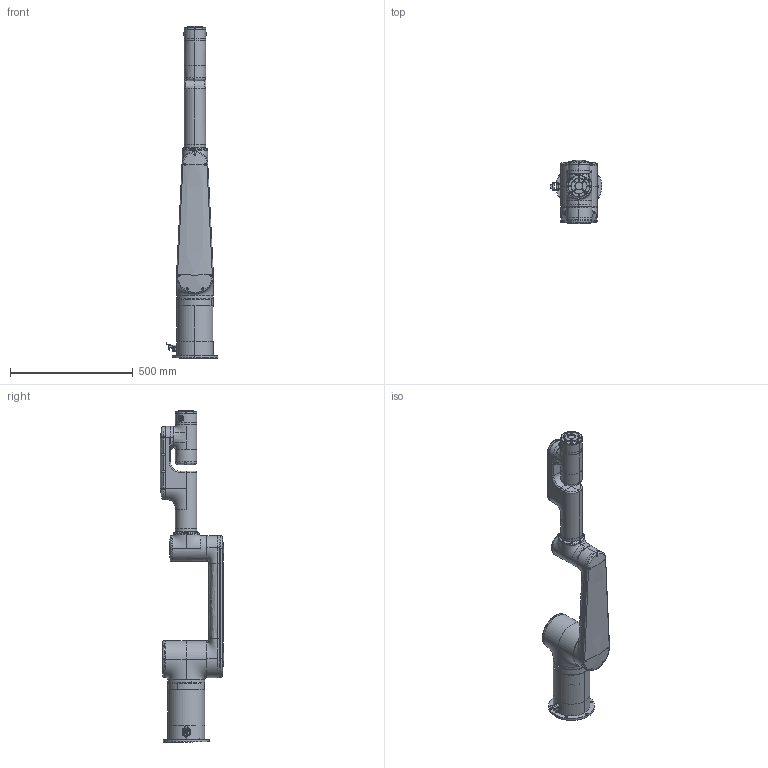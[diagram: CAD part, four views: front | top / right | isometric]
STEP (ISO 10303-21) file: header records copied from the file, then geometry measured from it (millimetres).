
FILE_DESCRIPTION(/* description */ (''),/* implementation_level */ '2;1');
FILE_NAME(/* name */ 'OPTI5_dummy',/* time_stamp */ '2025-10-21T17:38:03+09:00',/* author */ (''),/* organization */ (''),/* preprocessor_version */ 'ST-DEVELOPER v16.5',/* originating_system */ 'Rhino 7.38',/* authorisation */ '');
FILE_SCHEMA (('CONFIG_CONTROL_DESIGN'));
Length unit declared in the file: millimetre
Products named in the file (5): Document; M29000052A_BOLT_M3_L8_HS; CONN_HARTING_09452151760_100585822MOD000A; Block 11; DUMMY_Endtool_Connector_RevE_Nut^Endtool_Connector_Rev.E
Assembly tree (6 placements, depth 3):
  Document
    M29000052A_BOLT_M3_L8_HS  x2
    CONN_HARTING_09452151760_100585822MOD000A
      Block 11
    DUMMY_Endtool_Connector_RevE_Nut^Endtool_Connector_Rev.E  x2
Bounding box: 209.68 x 257.5 x 1350.5 mm (x, y, z)
Volume: 8736848.6 mm3; surface area: 1105313.1 mm2
Topology: 20 solids, 66 shells, 2637 faces, 7040 edges, 4597 vertices
Faces by surface type: plane 1388, cylinder 902, bspline 347
Full cylindrical faces by diameter (mm): 1 x2
Entity records: 288939 total; most frequent: CARTESIAN_POINT 240742, ORIENTED_EDGE 13337, EDGE_CURVE 6820, B_SPLINE_CURVE_WITH_KNOTS 5551, VERTEX_POINT 4534, EDGE_LOOP 3059, ADVANCED_FACE 2592, FACE_OUTER_BOUND 2592
